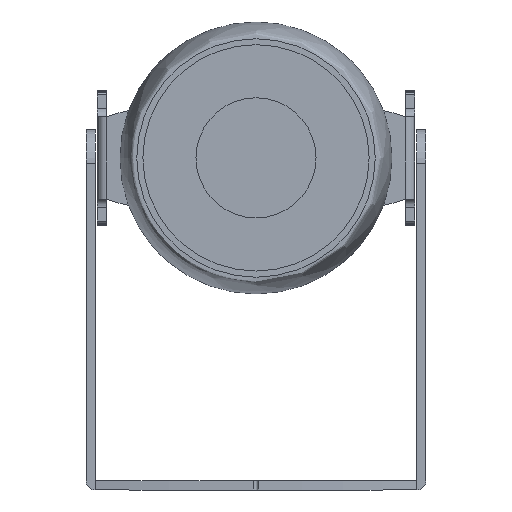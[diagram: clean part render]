
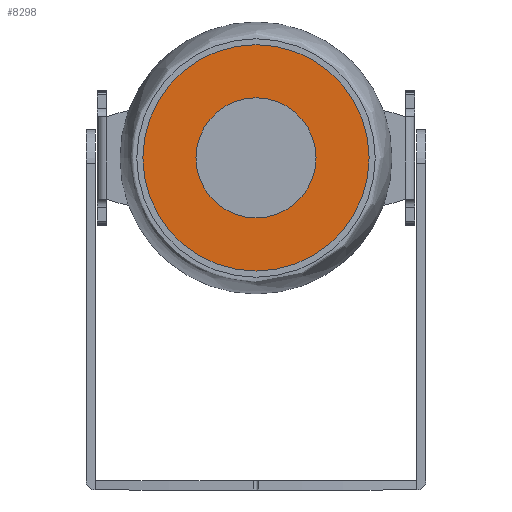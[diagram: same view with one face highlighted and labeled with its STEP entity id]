
A CAD part, front view. The second image highlights one B-rep face of the part: STEP entity #8298.
In plain terms, the highlighted planar face has unit normal (0, -1, 0).
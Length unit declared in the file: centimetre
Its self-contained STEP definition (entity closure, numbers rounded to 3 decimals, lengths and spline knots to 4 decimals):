
#56=FACE_BOUND('',#1180,.T.);
#710=FACE_OUTER_BOUND('',#1179,.T.);
#1179=EDGE_LOOP('',(#7438));
#1180=EDGE_LOOP('',(#7439));
#1703=CIRCLE('',#9224,1.325);
#1706=CIRCLE('',#9229,2.4961);
#3883=VERTEX_POINT('',#14401);
#3886=VERTEX_POINT('',#14410);
#5077=EDGE_CURVE('',#3883,#3883,#1703,.T.);
#5082=EDGE_CURVE('',#3886,#3886,#1706,.T.);
#7438=ORIENTED_EDGE('',*,*,#5082,.T.);
#7439=ORIENTED_EDGE('',*,*,#5077,.T.);
#7888=PLANE('',#9230);
#8298=ADVANCED_FACE('',(#710,#56),#7888,.T.);
#9224=AXIS2_PLACEMENT_3D('',#14402,#11688,#11689);
#9229=AXIS2_PLACEMENT_3D('',#14412,#11700,#11701);
#9230=AXIS2_PLACEMENT_3D('',#14413,#11702,#11703);
#11688=DIRECTION('center_axis',(0.,1.,0.));
#11689=DIRECTION('ref_axis',(1.,0.,0.));
#11700=DIRECTION('center_axis',(0.,-1.,0.));
#11701=DIRECTION('ref_axis',(1.,0.,0.));
#11702=DIRECTION('center_axis',(0.,-1.,0.));
#11703=DIRECTION('ref_axis',(-1.,0.,0.));
#14401=CARTESIAN_POINT('',(742.4478,-392.2421,-2.6532));
#14402=CARTESIAN_POINT('Origin',(743.7728,-392.2421,-2.6532));
#14410=CARTESIAN_POINT('',(741.2767,-392.2421,-2.6532));
#14412=CARTESIAN_POINT('Origin',(743.7728,-392.2421,-2.6532));
#14413=CARTESIAN_POINT('Origin',(743.7728,-392.2421,-2.6532));
